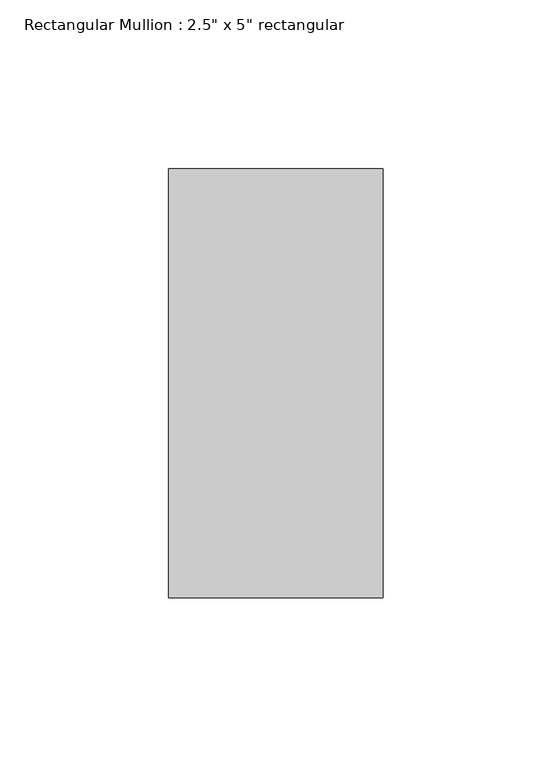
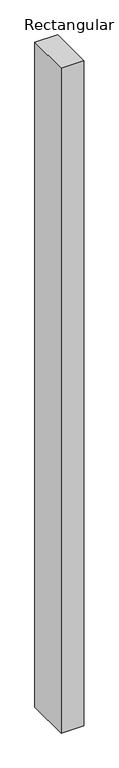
"""IFC4 building model written with IfcOpenShell, lengths in millimetres: member geometry."""

from ifc_helpers import new_model, si_unit, frame, origin, place, context, project, spatial, polyline, outline, extrude, source, transform, mapped, element, save


def member_391b434c(model_context):
    return source(origin(), model_context, "Body", "SweptSolid", [
        extrude(outline(polyline([(0.0, 63.5), (0.0, -63.5), (-63.5, -63.5), (-63.5, 63.5), (0.0, 63.5)])), frame((0.0, 0.0, -1968.5), z_axis=(0.0, 0.0, 1.0), x_axis=(1.0, 0.0, 0.0)), (0.0, 0.0, 1.0), 1968.5),
    ])


if __name__ == "__main__":
    model = new_model("IFC4")
    model_context = context("Model", 3, world=origin())
    ifc_project = project(units=[si_unit("LENGTHUNIT", "METRE", prefix="MILLI")], contexts=[model_context])
    site = spatial("IfcSite", under=ifc_project)
    building = spatial("IfcBuilding", under=site)
    placement = place(None, origin())
    member_shape = member_391b434c(model_context)
    element("IfcMember", 1, ObjectType="Rectangular Mullion : 2.5\" x 5\" rectangular", at=placement, inside=building, context=model_context, shape_type="MappedRepresentation", body=[
        mapped(member_shape, transform((0.0, 0.0, 0.0), x_axis=(1.0, 0.0, 0.0), y_axis=(0.0, 1.0, 0.0), z_axis=(0.0, 0.0, 1.0))),
    ])
    save(model, "model.ifc")
